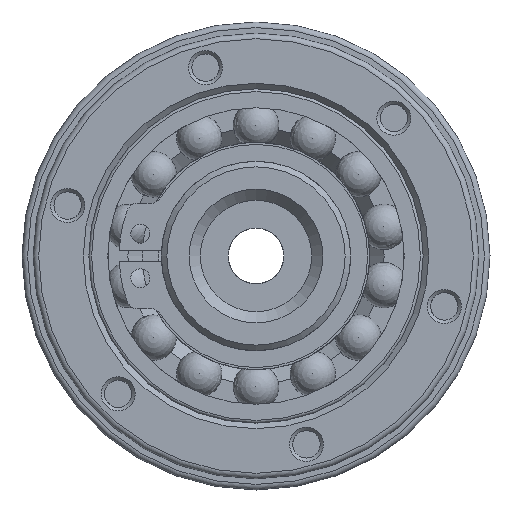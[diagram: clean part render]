
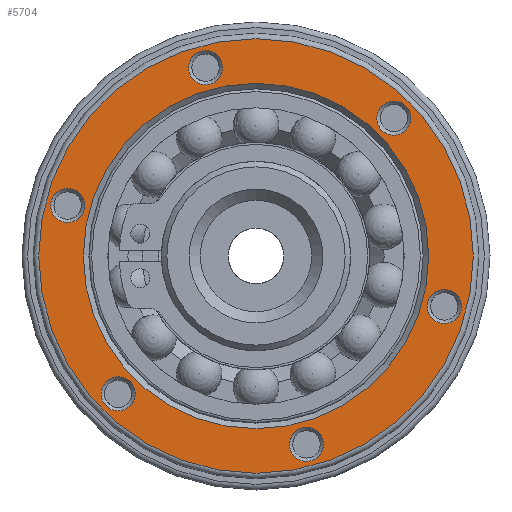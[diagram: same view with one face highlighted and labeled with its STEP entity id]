
A CAD part, left-side view. The second image highlights one B-rep face of the part: STEP entity #5704.
In plain terms, the highlighted planar face has unit normal (-1, 0, 0).
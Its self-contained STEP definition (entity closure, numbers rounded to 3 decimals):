
#1698=ORIENTED_EDGE('',*,*,#2316,.F.);
#1699=ORIENTED_EDGE('',*,*,#2317,.F.);
#1700=ORIENTED_EDGE('',*,*,#2318,.F.);
#1701=ORIENTED_EDGE('',*,*,#2319,.F.);
#1702=ORIENTED_EDGE('',*,*,#2320,.F.);
#1703=ORIENTED_EDGE('',*,*,#2321,.F.);
#1704=ORIENTED_EDGE('',*,*,#2322,.T.);
#1705=ORIENTED_EDGE('',*,*,#2323,.F.);
#2316=EDGE_CURVE('',#2720,#2720,#2989,.T.);
#2317=EDGE_CURVE('',#2721,#2721,#2990,.T.);
#2318=EDGE_CURVE('',#2722,#2722,#2991,.T.);
#2319=EDGE_CURVE('',#2723,#2723,#2992,.T.);
#2320=EDGE_CURVE('',#2724,#2724,#2993,.T.);
#2321=EDGE_CURVE('',#2725,#2725,#2994,.T.);
#2322=EDGE_CURVE('',#2726,#2726,#2995,.T.);
#2323=EDGE_CURVE('',#2727,#2727,#2996,.T.);
#2720=VERTEX_POINT('',#9115);
#2721=VERTEX_POINT('',#9117);
#2722=VERTEX_POINT('',#9119);
#2723=VERTEX_POINT('',#9121);
#2724=VERTEX_POINT('',#9123);
#2725=VERTEX_POINT('',#9125);
#2726=VERTEX_POINT('',#9127);
#2727=VERTEX_POINT('',#9129);
#2989=CIRCLE('',#6200,1.53);
#2990=CIRCLE('',#6201,1.53);
#2991=CIRCLE('',#6202,1.53);
#2992=CIRCLE('',#6203,1.53);
#2993=CIRCLE('',#6204,1.53);
#2994=CIRCLE('',#6205,1.53);
#2995=CIRCLE('',#6206,19.5);
#2996=CIRCLE('',#6207,15.5);
#3303=EDGE_LOOP('',(#1698));
#3304=EDGE_LOOP('',(#1699));
#3305=EDGE_LOOP('',(#1700));
#3306=EDGE_LOOP('',(#1701));
#3307=EDGE_LOOP('',(#1702));
#3308=EDGE_LOOP('',(#1703));
#3309=EDGE_LOOP('',(#1704));
#3310=EDGE_LOOP('',(#1705));
#3657=FACE_BOUND('',#3303,.T.);
#3658=FACE_BOUND('',#3304,.T.);
#3659=FACE_BOUND('',#3305,.T.);
#3660=FACE_BOUND('',#3306,.T.);
#3661=FACE_BOUND('',#3307,.T.);
#3662=FACE_BOUND('',#3308,.T.);
#3663=FACE_BOUND('',#3309,.T.);
#3664=FACE_BOUND('',#3310,.T.);
#3803=PLANE('',#6199);
#5704=ADVANCED_FACE('',(#3657,#3658,#3659,#3660,#3661,#3662,#3663,#3664),
#3803,.T.);
#6199=AXIS2_PLACEMENT_3D('',#9113,#7325,#7326);
#6200=AXIS2_PLACEMENT_3D('',#9114,#7327,#7328);
#6201=AXIS2_PLACEMENT_3D('',#9116,#7329,#7330);
#6202=AXIS2_PLACEMENT_3D('',#9118,#7331,#7332);
#6203=AXIS2_PLACEMENT_3D('',#9120,#7333,#7334);
#6204=AXIS2_PLACEMENT_3D('',#9122,#7335,#7336);
#6205=AXIS2_PLACEMENT_3D('',#9124,#7337,#7338);
#6206=AXIS2_PLACEMENT_3D('',#9126,#7339,#7340);
#6207=AXIS2_PLACEMENT_3D('',#9128,#7341,#7342);
#7325=DIRECTION('',(-1.,0.,0.));
#7326=DIRECTION('',(0.,0.,1.));
#7327=DIRECTION('',(-1.,0.,0.));
#7328=DIRECTION('',(0.,0.,1.));
#7329=DIRECTION('',(-1.,0.,0.));
#7330=DIRECTION('',(0.,0.,1.));
#7331=DIRECTION('',(-1.,0.,0.));
#7332=DIRECTION('',(0.,0.,1.));
#7333=DIRECTION('',(-1.,0.,0.));
#7334=DIRECTION('',(0.,0.,1.));
#7335=DIRECTION('',(-1.,0.,0.));
#7336=DIRECTION('',(0.,0.,1.));
#7337=DIRECTION('',(-1.,0.,0.));
#7338=DIRECTION('',(0.,0.,1.));
#7339=DIRECTION('',(-1.,0.,0.));
#7340=DIRECTION('',(0.,0.,1.));
#7341=DIRECTION('',(-1.,0.,0.));
#7342=DIRECTION('',(0.,0.,1.));
#9113=CARTESIAN_POINT('',(0.,0.,20.));
#9114=CARTESIAN_POINT('',(0.,12.374,-12.374));
#9115=CARTESIAN_POINT('',(0.,12.374,-10.845));
#9116=CARTESIAN_POINT('',(0.,-4.529,-16.904));
#9117=CARTESIAN_POINT('',(0.,-4.529,-15.374));
#9118=CARTESIAN_POINT('',(0.,-16.904,-4.529));
#9119=CARTESIAN_POINT('',(0.,-16.904,-3.));
#9120=CARTESIAN_POINT('',(0.,-12.374,12.374));
#9121=CARTESIAN_POINT('',(0.,-12.374,13.904));
#9122=CARTESIAN_POINT('',(0.,16.904,4.529));
#9123=CARTESIAN_POINT('',(0.,16.904,6.059));
#9124=CARTESIAN_POINT('',(0.,4.529,16.904));
#9125=CARTESIAN_POINT('',(0.,4.529,18.433));
#9126=CARTESIAN_POINT('',(0.,0.,0.));
#9127=CARTESIAN_POINT('',(0.,0.,19.5));
#9128=CARTESIAN_POINT('',(0.,0.,0.));
#9129=CARTESIAN_POINT('',(0.,0.,15.5));
